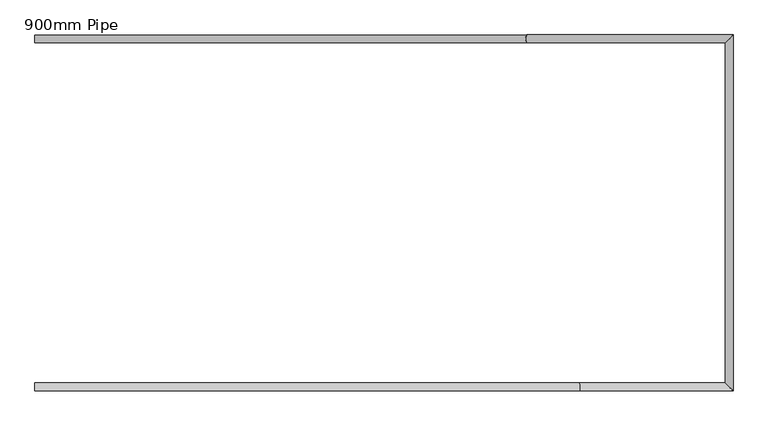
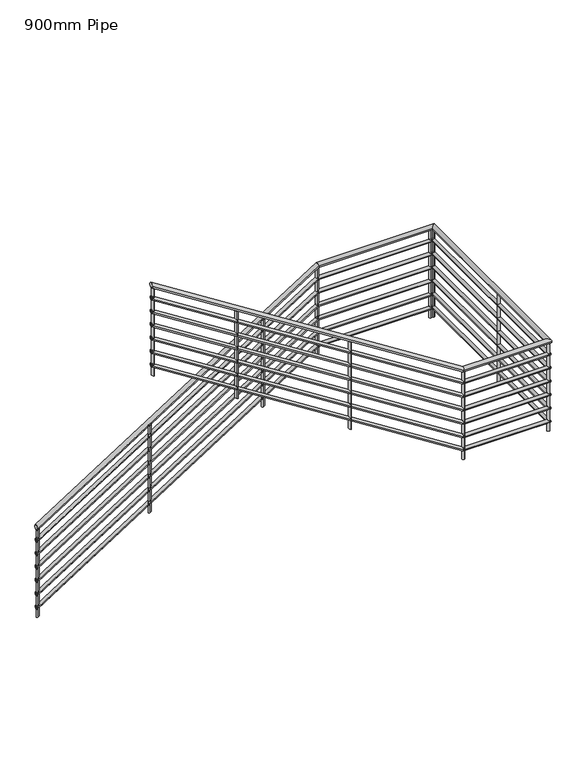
"""IFC4 building model written with IfcOpenShell, lengths in millimetres: railing geometry, 900mm Pipe."""

from ifc_helpers import new_model, si_unit, point, frame, frame_2d, origin, place, context, project, spatial, circle_curve, ellipse_curve, trimmed, segment, composite_curve, outline, extrude, source, transform, mapped, element, save
from ifc_brep_helpers import plane_surface, cylinder_surface, advanced_brep


def railing_900mm_pipe_946b6890(model_context):
    return source(origin(), model_context, "Body", "SolidModel", [
        advanced_brep(
        [(9044.2181942, 164.5332903, 8051.2938094), (9044.2181942, 204.5332903, 8051.2938094), (11525.0422079, 204.5332903, 9630.0), (11525.0422079, 164.5332903, 9630.0), (12564.2181942, 204.5332903, 9630.0), (12524.2181942, 164.5332903, 9630.0), (12564.2181942, -1592.0090589, 9630.0), (12524.2181942, -1552.0090589, 9630.0), (11788.3941804, -1592.0090589, 9630.0), (11788.3941804, -1552.0090589, 9630.0), (9044.2181942, -1552.0090589, 11376.2938094), (9044.2181942, -1592.0090589, 11376.2938094)],
        [
            (0, 1, ellipse_curve(frame((9044.2181942, 184.5332903, 8051.2938094), z_axis=(-1.0, 0.0, 0.0), x_axis=(0.0, 0.0, -1.0)), 23.7061906, 20.0)),
            (1, 0, ellipse_curve(frame((9044.2181942, 184.5332903, 8051.2938094), z_axis=(-1.0, 0.0, 0.0), x_axis=(0.0, 0.0, -1.0)), 23.7061906, 20.0)),
            (1, 2),
            (2, 3, ellipse_curve(frame((11525.0422079, 184.5332903, 9630.0), z_axis=(-0.9601201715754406, 0.0, -0.2795876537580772), x_axis=(0.27958765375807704, 0.0, -0.9601201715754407)), 20.8307258, 20.0)),
            (3, 0),
            (3, 2, ellipse_curve(frame((11525.0422079, 184.5332903, 9630.0), z_axis=(-0.9601201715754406, 0.0, -0.2795876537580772), x_axis=(0.27958765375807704, 0.0, -0.9601201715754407)), 20.8307258, 20.0)),
            (2, 4),
            (4, 5, ellipse_curve(frame((12544.2181942, 184.5332903, 9630.0), z_axis=(-0.7071067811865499, 0.707106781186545, 0.0), x_axis=(-0.7071067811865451, -0.7071067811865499, 0.0)), 28.2842712, 20.0)),
            (5, 3),
            (5, 4, ellipse_curve(frame((12544.2181942, 184.5332903, 9630.0), z_axis=(-0.7071067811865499, 0.707106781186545, 0.0), x_axis=(-0.7071067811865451, -0.7071067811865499, 0.0)), 28.2842712, 20.0)),
            (4, 6),
            (6, 7, ellipse_curve(frame((12544.2181942, -1572.0090589, 9630.0), z_axis=(0.7071067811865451, 0.7071067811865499, 0.0), x_axis=(-0.70710678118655, 0.7071067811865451, 0.0)), 28.2842712, 20.0)),
            (7, 5),
            (7, 6, ellipse_curve(frame((12544.2181942, -1572.0090589, 9630.0), z_axis=(0.7071067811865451, 0.7071067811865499, 0.0), x_axis=(-0.70710678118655, 0.7071067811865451, 0.0)), 28.2842712, 20.0)),
            (6, 8),
            (8, 9, ellipse_curve(frame((11788.3941804, -1572.0090589, 9630.0), z_axis=(0.9601201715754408, 0.0, -0.27958765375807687), x_axis=(0.27958765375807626, 0.0, 0.960120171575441)), 20.8307258, 20.0)),
            (9, 7),
            (9, 8, ellipse_curve(frame((11788.3941804, -1572.0090589, 9630.0), z_axis=(0.9601201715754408, 0.0, -0.27958765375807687), x_axis=(0.27958765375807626, 0.0, 0.960120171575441)), 20.8307258, 20.0)),
            (10, 11, ellipse_curve(frame((9044.2181942, -1572.0090589, 11376.2938094), z_axis=(-1.0, 0.0, 0.0), x_axis=(0.0, 0.0, -1.0)), 23.7061906, 20.0)),
            (11, 10, ellipse_curve(frame((9044.2181942, -1572.0090589, 11376.2938094), z_axis=(-1.0, 0.0, 0.0), x_axis=(0.0, 0.0, -1.0)), 23.7061906, 20.0)),
            (8, 11),
            (10, 9),
        ],
        [
            plane_surface(frame((9044.2181942, 184.5332903, 8075.0), z_axis=(-1.0, 0.0, 0.0), x_axis=(0.0, 1.0, 0.0))),
            cylinder_surface(frame((9054.955704, 184.5332903, 8058.1267702), z_axis=(-0.843661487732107, 0.0, -0.53687549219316), x_axis=(0.0, 1.0, 0.0)), 20.0),
            cylinder_surface(frame((11519.2181942, 184.5332903, 9630.0), z_axis=(-1.0, 0.0, 0.0), x_axis=(0.0, 1.0, 0.0)), 20.0),
            cylinder_surface(frame((12544.2181942, 184.5332903, 9630.0), z_axis=(0.0, 1.0, 0.0), x_axis=(1.0, 0.0, 0.0)), 20.0),
            cylinder_surface(frame((12544.2181942, -1572.0090589, 9630.0), z_axis=(1.0, 0.0, 0.0), x_axis=(0.0, -1.0, 0.0)), 20.0),
            plane_surface(frame((9044.2181942, -1572.0090589, 11400.0), z_axis=(-1.0, 0.0, 0.0), x_axis=(0.0, -1.0, 0.0))),
            cylinder_surface(frame((11783.4806843, -1572.0090589, 9633.1267702), z_axis=(0.8436614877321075, 0.0, -0.5368754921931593), x_axis=(0.0, -1.0, 0.0)), 20.0),
        ],
        [
            (0, [[1, 2]]),
            (1, [[-2, 3, 4, 5]]),
            (1, [[-1, -5, 6, -3]]),
            (2, [[-4, 7, 8, 9]]),
            (2, [[-6, -9, 10, -7]]),
            (3, [[-8, 11, 12, 13]]),
            (3, [[-10, -13, 14, -11]]),
            (4, [[-12, 15, 16, 17]]),
            (4, [[-14, -17, 18, -15]]),
            (5, [[19, 20]]),
            (6, [[-16, 21, -19, 22]]),
            (6, [[-18, -22, -20, -21]]),
        ],
    ),
        advanced_brep(
        [(9044.2181942, 169.5332903, 7932.2203571), (9044.2181942, 199.5332903, 7932.2203571), (11523.5862045, 199.5332903, 9510.0), (11523.5862045, 169.5332903, 9510.0), (12559.2181942, 199.5332903, 9510.0), (12529.2181942, 169.5332903, 9510.0), (12559.2181942, -1587.0090589, 9510.0), (12529.2181942, -1557.0090589, 9510.0), (11789.8501838, -1587.0090589, 9510.0), (11789.8501838, -1557.0090589, 9510.0), (9044.2181942, -1557.0090589, 11257.2203571), (9044.2181942, -1587.0090589, 11257.2203571)],
        [
            (0, 1, ellipse_curve(frame((9044.2181942, 184.5332903, 7932.2203571), z_axis=(-1.0, 0.0, 0.0), x_axis=(0.0, 0.0, -1.0)), 17.7796429, 15.0)),
            (1, 0, ellipse_curve(frame((9044.2181942, 184.5332903, 7932.2203571), z_axis=(-1.0, 0.0, 0.0), x_axis=(0.0, 0.0, -1.0)), 17.7796429, 15.0)),
            (1, 2),
            (2, 3, ellipse_curve(frame((11523.5862045, 184.5332903, 9510.0), z_axis=(-0.9601201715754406, 0.0, -0.2795876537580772), x_axis=(0.27958765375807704, 0.0, -0.9601201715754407)), 15.6230443, 15.0)),
            (3, 0),
            (3, 2, ellipse_curve(frame((11523.5862045, 184.5332903, 9510.0), z_axis=(-0.9601201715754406, 0.0, -0.2795876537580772), x_axis=(0.27958765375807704, 0.0, -0.9601201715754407)), 15.6230443, 15.0)),
            (2, 4),
            (4, 5, ellipse_curve(frame((12544.2181942, 184.5332903, 9510.0), z_axis=(-0.7071067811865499, 0.707106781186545, 0.0), x_axis=(-0.7071067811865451, -0.7071067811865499, 0.0)), 21.2132034, 15.0)),
            (5, 3),
            (5, 4, ellipse_curve(frame((12544.2181942, 184.5332903, 9510.0), z_axis=(-0.7071067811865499, 0.707106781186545, 0.0), x_axis=(-0.7071067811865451, -0.7071067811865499, 0.0)), 21.2132034, 15.0)),
            (4, 6),
            (6, 7, ellipse_curve(frame((12544.2181942, -1572.0090589, 9510.0), z_axis=(0.7071067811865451, 0.7071067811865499, 0.0), x_axis=(-0.70710678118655, 0.7071067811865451, 0.0)), 21.2132034, 15.0)),
            (7, 5),
            (7, 6, ellipse_curve(frame((12544.2181942, -1572.0090589, 9510.0), z_axis=(0.7071067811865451, 0.7071067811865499, 0.0), x_axis=(-0.70710678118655, 0.7071067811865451, 0.0)), 21.2132034, 15.0)),
            (6, 8),
            (8, 9, ellipse_curve(frame((11789.8501838, -1572.0090589, 9510.0), z_axis=(0.9601201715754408, 0.0, -0.27958765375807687), x_axis=(0.27958765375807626, 0.0, 0.960120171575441)), 15.6230443, 15.0)),
            (9, 7),
            (9, 8, ellipse_curve(frame((11789.8501838, -1572.0090589, 9510.0), z_axis=(0.9601201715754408, 0.0, -0.27958765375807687), x_axis=(0.27958765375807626, 0.0, 0.960120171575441)), 15.6230443, 15.0)),
            (10, 11, ellipse_curve(frame((9044.2181942, -1572.0090589, 11257.2203571), z_axis=(-1.0, 0.0, 0.0), x_axis=(0.0, 0.0, -1.0)), 17.7796429, 15.0)),
            (11, 10, ellipse_curve(frame((9044.2181942, -1572.0090589, 11257.2203571), z_axis=(-1.0, 0.0, 0.0), x_axis=(0.0, 0.0, -1.0)), 17.7796429, 15.0)),
            (8, 11),
            (10, 9),
        ],
        [
            plane_surface(frame((9044.2181942, 184.5332903, 7950.0), z_axis=(-1.0, 0.0, 0.0), x_axis=(0.0, 1.0, 0.0))),
            cylinder_surface(frame((9052.2713265, 184.5332903, 7937.3450777), z_axis=(-0.843661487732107, 0.0, -0.53687549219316), x_axis=(0.0, 1.0, 0.0)), 15.0),
            cylinder_surface(frame((11519.2181942, 184.5332903, 9510.0), z_axis=(-1.0, 0.0, 0.0), x_axis=(0.0, 1.0, 0.0)), 15.0),
            cylinder_surface(frame((12544.2181942, 184.5332903, 9510.0), z_axis=(0.0, 1.0, 0.0), x_axis=(1.0, 0.0, 0.0)), 15.0),
            cylinder_surface(frame((12544.2181942, -1572.0090589, 9510.0), z_axis=(1.0, 0.0, 0.0), x_axis=(0.0, -1.0, 0.0)), 15.0),
            plane_surface(frame((9044.2181942, -1572.0090589, 11275.0), z_axis=(-1.0, 0.0, 0.0), x_axis=(0.0, -1.0, 0.0))),
            cylinder_surface(frame((11786.1650618, -1572.0090589, 9512.3450777), z_axis=(0.8436614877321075, 0.0, -0.5368754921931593), x_axis=(0.0, -1.0, 0.0)), 15.0),
        ],
        [
            (0, [[1, 2]]),
            (1, [[-2, 3, 4, 5]]),
            (1, [[-1, -5, 6, -3]]),
            (2, [[-4, 7, 8, 9]]),
            (2, [[-6, -9, 10, -7]]),
            (3, [[-8, 11, 12, 13]]),
            (3, [[-10, -13, 14, -11]]),
            (4, [[-12, 15, 16, 17]]),
            (4, [[-14, -17, 18, -15]]),
            (5, [[19, 20]]),
            (6, [[-16, 21, -19, 22]]),
            (6, [[-18, -22, -20, -21]]),
        ],
    ),
        advanced_brep(
        [(9044.2181942, 169.5332903, 7807.2203571), (9044.2181942, 199.5332903, 7807.2203571), (11523.5862045, 199.5332903, 9385.0), (11523.5862045, 169.5332903, 9385.0), (12559.2181942, 199.5332903, 9385.0), (12529.2181942, 169.5332903, 9385.0), (12559.2181942, -1587.0090589, 9385.0), (12529.2181942, -1557.0090589, 9385.0), (11789.8501838, -1587.0090589, 9385.0), (11789.8501838, -1557.0090589, 9385.0), (9044.2181942, -1557.0090589, 11132.2203571), (9044.2181942, -1587.0090589, 11132.2203571)],
        [
            (0, 1, ellipse_curve(frame((9044.2181942, 184.5332903, 7807.2203571), z_axis=(-1.0, 0.0, 0.0), x_axis=(0.0, 0.0, -1.0)), 17.7796429, 15.0)),
            (1, 0, ellipse_curve(frame((9044.2181942, 184.5332903, 7807.2203571), z_axis=(-1.0, 0.0, 0.0), x_axis=(0.0, 0.0, -1.0)), 17.7796429, 15.0)),
            (1, 2),
            (2, 3, ellipse_curve(frame((11523.5862045, 184.5332903, 9385.0), z_axis=(-0.9601201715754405, 0.0, -0.2795876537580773), x_axis=(0.2795876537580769, 0.0, -0.9601201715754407)), 15.6230443, 15.0)),
            (3, 0),
            (3, 2, ellipse_curve(frame((11523.5862045, 184.5332903, 9385.0), z_axis=(-0.9601201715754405, 0.0, -0.2795876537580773), x_axis=(0.2795876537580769, 0.0, -0.9601201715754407)), 15.6230443, 15.0)),
            (2, 4),
            (4, 5, ellipse_curve(frame((12544.2181942, 184.5332903, 9385.0), z_axis=(-0.7071067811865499, 0.707106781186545, 0.0), x_axis=(-0.7071067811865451, -0.7071067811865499, 0.0)), 21.2132034, 15.0)),
            (5, 3),
            (5, 4, ellipse_curve(frame((12544.2181942, 184.5332903, 9385.0), z_axis=(-0.7071067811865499, 0.707106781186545, 0.0), x_axis=(-0.7071067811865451, -0.7071067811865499, 0.0)), 21.2132034, 15.0)),
            (4, 6),
            (6, 7, ellipse_curve(frame((12544.2181942, -1572.0090589, 9385.0), z_axis=(0.7071067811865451, 0.7071067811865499, 0.0), x_axis=(-0.70710678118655, 0.7071067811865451, 0.0)), 21.2132034, 15.0)),
            (7, 5),
            (7, 6, ellipse_curve(frame((12544.2181942, -1572.0090589, 9385.0), z_axis=(0.7071067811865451, 0.7071067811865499, 0.0), x_axis=(-0.70710678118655, 0.7071067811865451, 0.0)), 21.2132034, 15.0)),
            (6, 8),
            (8, 9, ellipse_curve(frame((11789.8501838, -1572.0090589, 9385.0), z_axis=(0.9601201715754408, 0.0, -0.27958765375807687), x_axis=(0.27958765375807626, 0.0, 0.9601201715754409)), 15.6230443, 15.0)),
            (9, 7),
            (9, 8, ellipse_curve(frame((11789.8501838, -1572.0090589, 9385.0), z_axis=(0.9601201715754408, 0.0, -0.27958765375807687), x_axis=(0.27958765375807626, 0.0, 0.9601201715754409)), 15.6230443, 15.0)),
            (10, 11, ellipse_curve(frame((9044.2181942, -1572.0090589, 11132.2203571), z_axis=(-1.0, 0.0, 0.0), x_axis=(0.0, 0.0, -1.0)), 17.7796429, 15.0)),
            (11, 10, ellipse_curve(frame((9044.2181942, -1572.0090589, 11132.2203571), z_axis=(-1.0, 0.0, 0.0), x_axis=(0.0, 0.0, -1.0)), 17.7796429, 15.0)),
            (8, 11),
            (10, 9),
        ],
        [
            plane_surface(frame((9044.2181942, 184.5332903, 7825.0), z_axis=(-1.0, 0.0, 0.0), x_axis=(0.0, 1.0, 0.0))),
            cylinder_surface(frame((9052.2713265, 184.5332903, 7812.3450777), z_axis=(-0.8436614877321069, 0.0, -0.5368754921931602), x_axis=(0.0, 1.0, 0.0)), 15.0),
            cylinder_surface(frame((11519.2181942, 184.5332903, 9385.0), z_axis=(-1.0, 0.0, 0.0), x_axis=(0.0, 1.0, 0.0)), 15.0),
            cylinder_surface(frame((12544.2181942, 184.5332903, 9385.0), z_axis=(0.0, 1.0, 0.0), x_axis=(1.0, 0.0, 0.0)), 15.0),
            cylinder_surface(frame((12544.2181942, -1572.0090589, 9385.0), z_axis=(1.0, 0.0, 0.0), x_axis=(0.0, -1.0, 0.0)), 15.0),
            plane_surface(frame((9044.2181942, -1572.0090589, 11150.0), z_axis=(-1.0, 0.0, 0.0), x_axis=(0.0, -1.0, 0.0))),
            cylinder_surface(frame((11786.1650618, -1572.0090589, 9387.3450777), z_axis=(0.8436614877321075, 0.0, -0.5368754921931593), x_axis=(0.0, -1.0, 0.0)), 15.0),
        ],
        [
            (0, [[1, 2]]),
            (1, [[-2, 3, 4, 5]]),
            (1, [[-1, -5, 6, -3]]),
            (2, [[-4, 7, 8, 9]]),
            (2, [[-6, -9, 10, -7]]),
            (3, [[-8, 11, 12, 13]]),
            (3, [[-10, -13, 14, -11]]),
            (4, [[-12, 15, 16, 17]]),
            (4, [[-14, -17, 18, -15]]),
            (5, [[19, 20]]),
            (6, [[-16, 21, -19, 22]]),
            (6, [[-18, -22, -20, -21]]),
        ],
    ),
        advanced_brep(
        [(9044.2181942, 169.5332903, 7682.2203571), (9044.2181942, 199.5332903, 7682.2203571), (11523.5862045, 199.5332903, 9260.0), (11523.5862045, 169.5332903, 9260.0), (12559.2181942, 199.5332903, 9260.0), (12529.2181942, 169.5332903, 9260.0), (12559.2181942, -1587.0090589, 9260.0), (12529.2181942, -1557.0090589, 9260.0), (11789.8501838, -1587.0090589, 9260.0), (11789.8501838, -1557.0090589, 9260.0), (9044.2181942, -1557.0090589, 11007.2203571), (9044.2181942, -1587.0090589, 11007.2203571)],
        [
            (0, 1, ellipse_curve(frame((9044.2181942, 184.5332903, 7682.2203571), z_axis=(-1.0, 0.0, 0.0), x_axis=(0.0, 0.0, -1.0)), 17.7796429, 15.0)),
            (1, 0, ellipse_curve(frame((9044.2181942, 184.5332903, 7682.2203571), z_axis=(-1.0, 0.0, 0.0), x_axis=(0.0, 0.0, -1.0)), 17.7796429, 15.0)),
            (1, 2),
            (2, 3, ellipse_curve(frame((11523.5862045, 184.5332903, 9260.0), z_axis=(-0.9601201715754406, 0.0, -0.2795876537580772), x_axis=(0.27958765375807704, 0.0, -0.9601201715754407)), 15.6230443, 15.0)),
            (3, 0),
            (3, 2, ellipse_curve(frame((11523.5862045, 184.5332903, 9260.0), z_axis=(-0.9601201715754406, 0.0, -0.2795876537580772), x_axis=(0.27958765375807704, 0.0, -0.9601201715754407)), 15.6230443, 15.0)),
            (2, 4),
            (4, 5, ellipse_curve(frame((12544.2181942, 184.5332903, 9260.0), z_axis=(-0.7071067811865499, 0.707106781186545, 0.0), x_axis=(-0.7071067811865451, -0.7071067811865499, 0.0)), 21.2132034, 15.0)),
            (5, 3),
            (5, 4, ellipse_curve(frame((12544.2181942, 184.5332903, 9260.0), z_axis=(-0.7071067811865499, 0.707106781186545, 0.0), x_axis=(-0.7071067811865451, -0.7071067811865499, 0.0)), 21.2132034, 15.0)),
            (4, 6),
            (6, 7, ellipse_curve(frame((12544.2181942, -1572.0090589, 9260.0), z_axis=(0.7071067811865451, 0.7071067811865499, 0.0), x_axis=(-0.70710678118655, 0.7071067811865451, 0.0)), 21.2132034, 15.0)),
            (7, 5),
            (7, 6, ellipse_curve(frame((12544.2181942, -1572.0090589, 9260.0), z_axis=(0.7071067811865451, 0.7071067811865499, 0.0), x_axis=(-0.70710678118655, 0.7071067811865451, 0.0)), 21.2132034, 15.0)),
            (6, 8),
            (8, 9, ellipse_curve(frame((11789.8501838, -1572.0090589, 9260.0), z_axis=(0.9601201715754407, 0.0, -0.279587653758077), x_axis=(0.27958765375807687, 0.0, 0.9601201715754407)), 15.6230443, 15.0)),
            (9, 7),
            (9, 8, ellipse_curve(frame((11789.8501838, -1572.0090589, 9260.0), z_axis=(0.9601201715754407, 0.0, -0.279587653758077), x_axis=(0.27958765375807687, 0.0, 0.9601201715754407)), 15.6230443, 15.0)),
            (10, 11, ellipse_curve(frame((9044.2181942, -1572.0090589, 11007.2203571), z_axis=(-1.0, 0.0, 0.0), x_axis=(0.0, 0.0, -1.0)), 17.7796429, 15.0)),
            (11, 10, ellipse_curve(frame((9044.2181942, -1572.0090589, 11007.2203571), z_axis=(-1.0, 0.0, 0.0), x_axis=(0.0, 0.0, -1.0)), 17.7796429, 15.0)),
            (8, 11),
            (10, 9),
        ],
        [
            plane_surface(frame((9044.2181942, 184.5332903, 7700.0), z_axis=(-1.0, 0.0, 0.0), x_axis=(0.0, 1.0, 0.0))),
            cylinder_surface(frame((9052.2713265, 184.5332903, 7687.3450777), z_axis=(-0.843661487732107, 0.0, -0.53687549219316), x_axis=(0.0, 1.0, 0.0)), 15.0),
            cylinder_surface(frame((11519.2181942, 184.5332903, 9260.0), z_axis=(-1.0, 0.0, 0.0), x_axis=(0.0, 1.0, 0.0)), 15.0),
            cylinder_surface(frame((12544.2181942, 184.5332903, 9260.0), z_axis=(0.0, 1.0, 0.0), x_axis=(1.0, 0.0, 0.0)), 15.0),
            cylinder_surface(frame((12544.2181942, -1572.0090589, 9260.0), z_axis=(1.0, 0.0, 0.0), x_axis=(0.0, -1.0, 0.0)), 15.0),
            plane_surface(frame((9044.2181942, -1572.0090589, 11025.0), z_axis=(-1.0, 0.0, 0.0), x_axis=(0.0, -1.0, 0.0))),
            cylinder_surface(frame((11786.1650618, -1572.0090589, 9262.3450777), z_axis=(0.8436614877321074, 0.0, -0.5368754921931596), x_axis=(0.0, -1.0, 0.0)), 15.0),
        ],
        [
            (0, [[1, 2]]),
            (1, [[-2, 3, 4, 5]]),
            (1, [[-1, -5, 6, -3]]),
            (2, [[-4, 7, 8, 9]]),
            (2, [[-6, -9, 10, -7]]),
            (3, [[-8, 11, 12, 13]]),
            (3, [[-10, -13, 14, -11]]),
            (4, [[-12, 15, 16, 17]]),
            (4, [[-14, -17, 18, -15]]),
            (5, [[19, 20]]),
            (6, [[-16, 21, -19, 22]]),
            (6, [[-18, -22, -20, -21]]),
        ],
    ),
        advanced_brep(
        [(9044.2181942, 169.5332903, 7557.2203571), (9044.2181942, 199.5332903, 7557.2203571), (11523.5862045, 199.5332903, 9135.0), (11523.5862045, 169.5332903, 9135.0), (12559.2181942, 199.5332903, 9135.0), (12529.2181942, 169.5332903, 9135.0), (12559.2181942, -1587.0090589, 9135.0), (12529.2181942, -1557.0090589, 9135.0), (11789.8501838, -1587.0090589, 9135.0), (11789.8501838, -1557.0090589, 9135.0), (9044.2181942, -1557.0090589, 10882.2203571), (9044.2181942, -1587.0090589, 10882.2203571)],
        [
            (0, 1, ellipse_curve(frame((9044.2181942, 184.5332903, 7557.2203571), z_axis=(-1.0, 0.0, 0.0), x_axis=(0.0, 0.0, -1.0)), 17.7796429, 15.0)),
            (1, 0, ellipse_curve(frame((9044.2181942, 184.5332903, 7557.2203571), z_axis=(-1.0, 0.0, 0.0), x_axis=(0.0, 0.0, -1.0)), 17.7796429, 15.0)),
            (1, 2),
            (2, 3, ellipse_curve(frame((11523.5862045, 184.5332903, 9135.0), z_axis=(-0.9601201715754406, 0.0, -0.2795876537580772), x_axis=(0.27958765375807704, 0.0, -0.9601201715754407)), 15.6230443, 15.0)),
            (3, 0),
            (3, 2, ellipse_curve(frame((11523.5862045, 184.5332903, 9135.0), z_axis=(-0.9601201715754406, 0.0, -0.2795876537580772), x_axis=(0.27958765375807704, 0.0, -0.9601201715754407)), 15.6230443, 15.0)),
            (2, 4),
            (4, 5, ellipse_curve(frame((12544.2181942, 184.5332903, 9135.0), z_axis=(-0.7071067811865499, 0.707106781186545, 0.0), x_axis=(-0.7071067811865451, -0.7071067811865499, 0.0)), 21.2132034, 15.0)),
            (5, 3),
            (5, 4, ellipse_curve(frame((12544.2181942, 184.5332903, 9135.0), z_axis=(-0.7071067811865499, 0.707106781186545, 0.0), x_axis=(-0.7071067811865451, -0.7071067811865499, 0.0)), 21.2132034, 15.0)),
            (4, 6),
            (6, 7, ellipse_curve(frame((12544.2181942, -1572.0090589, 9135.0), z_axis=(0.7071067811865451, 0.7071067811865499, 0.0), x_axis=(-0.70710678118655, 0.7071067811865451, 0.0)), 21.2132034, 15.0)),
            (7, 5),
            (7, 6, ellipse_curve(frame((12544.2181942, -1572.0090589, 9135.0), z_axis=(0.7071067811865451, 0.7071067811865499, 0.0), x_axis=(-0.70710678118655, 0.7071067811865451, 0.0)), 21.2132034, 15.0)),
            (6, 8),
            (8, 9, ellipse_curve(frame((11789.8501838, -1572.0090589, 9135.0), z_axis=(0.9601201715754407, 0.0, -0.279587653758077), x_axis=(0.27958765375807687, 0.0, 0.9601201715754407)), 15.6230443, 15.0)),
            (9, 7),
            (9, 8, ellipse_curve(frame((11789.8501838, -1572.0090589, 9135.0), z_axis=(0.9601201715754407, 0.0, -0.279587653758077), x_axis=(0.27958765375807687, 0.0, 0.9601201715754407)), 15.6230443, 15.0)),
            (10, 11, ellipse_curve(frame((9044.2181942, -1572.0090589, 10882.2203571), z_axis=(-1.0, 0.0, 0.0), x_axis=(0.0, 0.0, -1.0)), 17.7796429, 15.0)),
            (11, 10, ellipse_curve(frame((9044.2181942, -1572.0090589, 10882.2203571), z_axis=(-1.0, 0.0, 0.0), x_axis=(0.0, 0.0, -1.0)), 17.7796429, 15.0)),
            (8, 11),
            (10, 9),
        ],
        [
            plane_surface(frame((9044.2181942, 184.5332903, 7575.0), z_axis=(-1.0, 0.0, 0.0), x_axis=(0.0, 1.0, 0.0))),
            cylinder_surface(frame((9052.2713265, 184.5332903, 7562.3450777), z_axis=(-0.843661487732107, 0.0, -0.53687549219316), x_axis=(0.0, 1.0, 0.0)), 15.0),
            cylinder_surface(frame((11519.2181942, 184.5332903, 9135.0), z_axis=(-1.0, 0.0, 0.0), x_axis=(0.0, 1.0, 0.0)), 15.0),
            cylinder_surface(frame((12544.2181942, 184.5332903, 9135.0), z_axis=(0.0, 1.0, 0.0), x_axis=(1.0, 0.0, 0.0)), 15.0),
            cylinder_surface(frame((12544.2181942, -1572.0090589, 9135.0), z_axis=(1.0, 0.0, 0.0), x_axis=(0.0, -1.0, 0.0)), 15.0),
            plane_surface(frame((9044.2181942, -1572.0090589, 10900.0), z_axis=(-1.0, 0.0, 0.0), x_axis=(0.0, -1.0, 0.0))),
            cylinder_surface(frame((11786.1650618, -1572.0090589, 9137.3450777), z_axis=(0.8436614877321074, 0.0, -0.5368754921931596), x_axis=(0.0, -1.0, 0.0)), 15.0),
        ],
        [
            (0, [[1, 2]]),
            (1, [[-2, 3, 4, 5]]),
            (1, [[-1, -5, 6, -3]]),
            (2, [[-4, 7, 8, 9]]),
            (2, [[-6, -9, 10, -7]]),
            (3, [[-8, 11, 12, 13]]),
            (3, [[-10, -13, 14, -11]]),
            (4, [[-12, 15, 16, 17]]),
            (4, [[-14, -17, 18, -15]]),
            (5, [[19, 20]]),
            (6, [[-16, 21, -19, 22]]),
            (6, [[-18, -22, -20, -21]]),
        ],
    ),
        advanced_brep(
        [(9044.2181942, 169.5332903, 7432.2203571), (9044.2181942, 199.5332903, 7432.2203571), (11523.5862045, 199.5332903, 9010.0), (11523.5862045, 169.5332903, 9010.0), (12559.2181942, 199.5332903, 9010.0), (12529.2181942, 169.5332903, 9010.0), (12559.2181942, -1587.0090589, 9010.0), (12529.2181942, -1557.0090589, 9010.0), (11789.8501838, -1587.0090589, 9010.0), (11789.8501838, -1557.0090589, 9010.0), (9044.2181942, -1557.0090589, 10757.2203571), (9044.2181942, -1587.0090589, 10757.2203571)],
        [
            (0, 1, ellipse_curve(frame((9044.2181942, 184.5332903, 7432.2203571), z_axis=(-1.0, 0.0, 0.0), x_axis=(0.0, 0.0, -1.0)), 17.7796429, 15.0)),
            (1, 0, ellipse_curve(frame((9044.2181942, 184.5332903, 7432.2203571), z_axis=(-1.0, 0.0, 0.0), x_axis=(0.0, 0.0, -1.0)), 17.7796429, 15.0)),
            (1, 2),
            (2, 3, ellipse_curve(frame((11523.5862045, 184.5332903, 9010.0), z_axis=(-0.9601201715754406, 0.0, -0.2795876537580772), x_axis=(0.27958765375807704, 0.0, -0.9601201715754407)), 15.6230443, 15.0)),
            (3, 0),
            (3, 2, ellipse_curve(frame((11523.5862045, 184.5332903, 9010.0), z_axis=(-0.9601201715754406, 0.0, -0.2795876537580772), x_axis=(0.27958765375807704, 0.0, -0.9601201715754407)), 15.6230443, 15.0)),
            (2, 4),
            (4, 5, ellipse_curve(frame((12544.2181942, 184.5332903, 9010.0), z_axis=(-0.7071067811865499, 0.707106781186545, 0.0), x_axis=(-0.7071067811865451, -0.7071067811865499, 0.0)), 21.2132034, 15.0)),
            (5, 3),
            (5, 4, ellipse_curve(frame((12544.2181942, 184.5332903, 9010.0), z_axis=(-0.7071067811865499, 0.707106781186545, 0.0), x_axis=(-0.7071067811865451, -0.7071067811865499, 0.0)), 21.2132034, 15.0)),
            (4, 6),
            (6, 7, ellipse_curve(frame((12544.2181942, -1572.0090589, 9010.0), z_axis=(0.7071067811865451, 0.7071067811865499, 0.0), x_axis=(-0.70710678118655, 0.7071067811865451, 0.0)), 21.2132034, 15.0)),
            (7, 5),
            (7, 6, ellipse_curve(frame((12544.2181942, -1572.0090589, 9010.0), z_axis=(0.7071067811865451, 0.7071067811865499, 0.0), x_axis=(-0.70710678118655, 0.7071067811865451, 0.0)), 21.2132034, 15.0)),
            (6, 8),
            (8, 9, ellipse_curve(frame((11789.8501838, -1572.0090589, 9010.0), z_axis=(0.9601201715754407, 0.0, -0.279587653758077), x_axis=(0.27958765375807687, 0.0, 0.9601201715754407)), 15.6230443, 15.0)),
            (9, 7),
            (9, 8, ellipse_curve(frame((11789.8501838, -1572.0090589, 9010.0), z_axis=(0.9601201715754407, 0.0, -0.279587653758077), x_axis=(0.27958765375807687, 0.0, 0.9601201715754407)), 15.6230443, 15.0)),
            (10, 11, ellipse_curve(frame((9044.2181942, -1572.0090589, 10757.2203571), z_axis=(-1.0, 0.0, 0.0), x_axis=(0.0, 0.0, -1.0)), 17.7796429, 15.0)),
            (11, 10, ellipse_curve(frame((9044.2181942, -1572.0090589, 10757.2203571), z_axis=(-1.0, 0.0, 0.0), x_axis=(0.0, 0.0, -1.0)), 17.7796429, 15.0)),
            (8, 11),
            (10, 9),
        ],
        [
            plane_surface(frame((9044.2181942, 184.5332903, 7450.0), z_axis=(-1.0, 0.0, 0.0), x_axis=(0.0, 1.0, 0.0))),
            cylinder_surface(frame((9052.2713265, 184.5332903, 7437.3450777), z_axis=(-0.843661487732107, 0.0, -0.53687549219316), x_axis=(0.0, 1.0, 0.0)), 15.0),
            cylinder_surface(frame((11519.2181942, 184.5332903, 9010.0), z_axis=(-1.0, 0.0, 0.0), x_axis=(0.0, 1.0, 0.0)), 15.0),
            cylinder_surface(frame((12544.2181942, 184.5332903, 9010.0), z_axis=(0.0, 1.0, 0.0), x_axis=(1.0, 0.0, 0.0)), 15.0),
            cylinder_surface(frame((12544.2181942, -1572.0090589, 9010.0), z_axis=(1.0, 0.0, 0.0), x_axis=(0.0, -1.0, 0.0)), 15.0),
            plane_surface(frame((9044.2181942, -1572.0090589, 10775.0), z_axis=(-1.0, 0.0, 0.0), x_axis=(0.0, -1.0, 0.0))),
            cylinder_surface(frame((11786.1650618, -1572.0090589, 9012.3450777), z_axis=(0.8436614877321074, 0.0, -0.5368754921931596), x_axis=(0.0, -1.0, 0.0)), 15.0),
        ],
        [
            (0, [[1, 2]]),
            (1, [[-2, 3, 4, 5]]),
            (1, [[-1, -5, 6, -3]]),
            (2, [[-4, 7, 8, 9]]),
            (2, [[-6, -9, 10, -7]]),
            (3, [[-8, 11, 12, 13]]),
            (3, [[-10, -13, 14, -11]]),
            (4, [[-12, 15, 16, 17]]),
            (4, [[-14, -17, 18, -15]]),
            (5, [[19, 20]]),
            (6, [[-16, 21, -19, 22]]),
            (6, [[-18, -22, -20, -21]]),
        ],
    ),
        advanced_brep(
        [(9044.2181942, 169.5332903, 7307.2203571), (9044.2181942, 199.5332903, 7307.2203571), (11523.5862045, 199.5332903, 8885.0), (11523.5862045, 169.5332903, 8885.0), (12559.2181942, 199.5332903, 8885.0), (12529.2181942, 169.5332903, 8885.0), (12559.2181942, -1587.0090589, 8885.0), (12529.2181942, -1557.0090589, 8885.0), (11789.8501838, -1587.0090589, 8885.0), (11789.8501838, -1557.0090589, 8885.0), (9044.2181942, -1557.0090589, 10632.2203571), (9044.2181942, -1587.0090589, 10632.2203571)],
        [
            (0, 1, ellipse_curve(frame((9044.2181942, 184.5332903, 7307.2203571), z_axis=(-1.0, 0.0, 0.0), x_axis=(0.0, 0.0, -1.0)), 17.7796429, 15.0)),
            (1, 0, ellipse_curve(frame((9044.2181942, 184.5332903, 7307.2203571), z_axis=(-1.0, 0.0, 0.0), x_axis=(0.0, 0.0, -1.0)), 17.7796429, 15.0)),
            (1, 2),
            (2, 3, ellipse_curve(frame((11523.5862045, 184.5332903, 8885.0), z_axis=(-0.9601201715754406, 0.0, -0.2795876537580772), x_axis=(0.27958765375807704, 0.0, -0.9601201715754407)), 15.6230443, 15.0)),
            (3, 0),
            (3, 2, ellipse_curve(frame((11523.5862045, 184.5332903, 8885.0), z_axis=(-0.9601201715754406, 0.0, -0.2795876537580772), x_axis=(0.27958765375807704, 0.0, -0.9601201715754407)), 15.6230443, 15.0)),
            (2, 4),
            (4, 5, ellipse_curve(frame((12544.2181942, 184.5332903, 8885.0), z_axis=(-0.7071067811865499, 0.707106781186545, 0.0), x_axis=(-0.7071067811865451, -0.7071067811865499, 0.0)), 21.2132034, 15.0)),
            (5, 3),
            (5, 4, ellipse_curve(frame((12544.2181942, 184.5332903, 8885.0), z_axis=(-0.7071067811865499, 0.707106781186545, 0.0), x_axis=(-0.7071067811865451, -0.7071067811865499, 0.0)), 21.2132034, 15.0)),
            (4, 6),
            (6, 7, ellipse_curve(frame((12544.2181942, -1572.0090589, 8885.0), z_axis=(0.7071067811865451, 0.7071067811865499, 0.0), x_axis=(-0.70710678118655, 0.7071067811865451, 0.0)), 21.2132034, 15.0)),
            (7, 5),
            (7, 6, ellipse_curve(frame((12544.2181942, -1572.0090589, 8885.0), z_axis=(0.7071067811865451, 0.7071067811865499, 0.0), x_axis=(-0.70710678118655, 0.7071067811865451, 0.0)), 21.2132034, 15.0)),
            (6, 8),
            (8, 9, ellipse_curve(frame((11789.8501838, -1572.0090589, 8885.0), z_axis=(0.9601201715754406, 0.0, -0.2795876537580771), x_axis=(0.27958765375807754, 0.0, 0.9601201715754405)), 15.6230443, 15.0)),
            (9, 7),
            (9, 8, ellipse_curve(frame((11789.8501838, -1572.0090589, 8885.0), z_axis=(0.9601201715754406, 0.0, -0.2795876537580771), x_axis=(0.27958765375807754, 0.0, 0.9601201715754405)), 15.6230443, 15.0)),
            (10, 11, ellipse_curve(frame((9044.2181942, -1572.0090589, 10632.2203571), z_axis=(-1.0, 0.0, 0.0), x_axis=(0.0, 0.0, -1.0)), 17.7796429, 15.0)),
            (11, 10, ellipse_curve(frame((9044.2181942, -1572.0090589, 10632.2203571), z_axis=(-1.0, 0.0, 0.0), x_axis=(0.0, 0.0, -1.0)), 17.7796429, 15.0)),
            (8, 11),
            (10, 9),
        ],
        [
            plane_surface(frame((9044.2181942, 184.5332903, 7325.0), z_axis=(-1.0, 0.0, 0.0), x_axis=(0.0, 1.0, 0.0))),
            cylinder_surface(frame((9052.2713265, 184.5332903, 7312.3450777), z_axis=(-0.843661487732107, 0.0, -0.53687549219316), x_axis=(0.0, 1.0, 0.0)), 15.0),
            cylinder_surface(frame((11519.2181942, 184.5332903, 8885.0), z_axis=(-1.0, 0.0, 0.0), x_axis=(0.0, 1.0, 0.0)), 15.0),
            cylinder_surface(frame((12544.2181942, 184.5332903, 8885.0), z_axis=(0.0, 1.0, 0.0), x_axis=(1.0, 0.0, 0.0)), 15.0),
            cylinder_surface(frame((12544.2181942, -1572.0090589, 8885.0), z_axis=(1.0, 0.0, 0.0), x_axis=(0.0, -1.0, 0.0)), 15.0),
            plane_surface(frame((9044.2181942, -1572.0090589, 10650.0), z_axis=(-1.0, 0.0, 0.0), x_axis=(0.0, -1.0, 0.0))),
            cylinder_surface(frame((11786.1650618, -1572.0090589, 8887.3450777), z_axis=(0.8436614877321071, 0.0, -0.5368754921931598), x_axis=(0.0, -1.0, 0.0)), 15.0),
        ],
        [
            (0, [[1, 2]]),
            (1, [[-2, 3, 4, 5]]),
            (1, [[-1, -5, 6, -3]]),
            (2, [[-4, 7, 8, 9]]),
            (2, [[-6, -9, 10, -7]]),
            (3, [[-8, 11, 12, 13]]),
            (3, [[-10, -13, 14, -11]]),
            (4, [[-12, 15, 16, 17]]),
            (4, [[-14, -17, 18, -15]]),
            (5, [[19, 20]]),
            (6, [[-16, 21, -19, 22]]),
            (6, [[-18, -22, -20, -21]]),
        ],
    ),
        advanced_brep(
        [(9794.2181942, -1584.5090589, 10875.3148916), (9794.2181942, -1559.5090589, 10875.3148916), (9794.2181942, -1559.5090589, 10063.1941859), (9794.2181942, -1584.5090589, 10063.1941859)],
        [
            (0, 1, ellipse_curve(frame((9794.2181942, -1572.0090589, 10875.3148916), z_axis=(-0.5368754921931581, 0.0, -0.8436614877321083), x_axis=(-0.8436614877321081, 0.0, 0.5368754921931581)), 14.8163691, 12.5)),
            (1, 2),
            (2, 3, ellipse_curve(frame((9794.2181942, -1572.0090589, 10063.1941859), z_axis=(0.5368754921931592, 0.0, 0.8436614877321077), x_axis=(-0.8436614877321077, 0.0, 0.5368754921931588)), 14.8163691, 12.5)),
            (3, 0),
            (3, 2, ellipse_curve(frame((9794.2181942, -1572.0090589, 10063.1941859), z_axis=(0.5368754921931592, 0.0, 0.8436614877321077), x_axis=(-0.8436614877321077, 0.0, 0.5368754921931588)), 14.8163691, 12.5)),
            (1, 0, ellipse_curve(frame((9794.2181942, -1572.0090589, 10875.3148916), z_axis=(-0.5368754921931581, 0.0, -0.8436614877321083), x_axis=(-0.8436614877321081, 0.0, 0.5368754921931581)), 14.8163691, 12.5)),
        ],
        [
            cylinder_surface(frame((9794.2181942, -1572.0090589, 9963.1941859), z_axis=(0.0, 0.0, 1.0), x_axis=(0.0, 1.0, 0.0)), 12.5),
            plane_surface(frame((9769.2181942, -1547.0090589, 10891.2239825), z_axis=(0.5368754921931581, 0.0, 0.8436614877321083), x_axis=(0.0, -1.0, 0.0))),
            plane_surface(frame((9819.2181942, -1547.0090589, 10047.285095), z_axis=(-0.5368754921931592, 0.0, -0.8436614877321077), x_axis=(0.0, -1.0, 0.0))),
        ],
        [
            (0, [[1, 2, 3, 4]]),
            (0, [[5, -2, 6, -4]]),
            (1, [[-6, -1]]),
            (2, [[-5, -3]]),
        ],
    ),
        advanced_brep(
        [(10794.2181942, -1584.5090589, 10238.9512552), (10794.2181942, -1559.5090589, 10238.9512552), (10794.2181942, -1559.5090589, 9426.8305496), (10794.2181942, -1584.5090589, 9426.8305496)],
        [
            (0, 1, ellipse_curve(frame((10794.2181942, -1572.0090589, 10238.9512552), z_axis=(-0.5368754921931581, 0.0, -0.8436614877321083), x_axis=(-0.8436614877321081, 0.0, 0.5368754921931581)), 14.8163691, 12.5)),
            (1, 2),
            (2, 3, ellipse_curve(frame((10794.2181942, -1572.0090589, 9426.8305496), z_axis=(0.5368754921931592, 0.0, 0.8436614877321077), x_axis=(-0.8436614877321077, 0.0, 0.5368754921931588)), 14.8163691, 12.5)),
            (3, 0),
            (3, 2, ellipse_curve(frame((10794.2181942, -1572.0090589, 9426.8305496), z_axis=(0.5368754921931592, 0.0, 0.8436614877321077), x_axis=(-0.8436614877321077, 0.0, 0.5368754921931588)), 14.8163691, 12.5)),
            (1, 0, ellipse_curve(frame((10794.2181942, -1572.0090589, 10238.9512552), z_axis=(-0.5368754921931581, 0.0, -0.8436614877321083), x_axis=(-0.8436614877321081, 0.0, 0.5368754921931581)), 14.8163691, 12.5)),
        ],
        [
            cylinder_surface(frame((10794.2181942, -1572.0090589, 9326.8305496), z_axis=(0.0, 0.0, 1.0), x_axis=(0.0, 1.0, 0.0)), 12.5),
            plane_surface(frame((10769.2181942, -1547.0090589, 10254.8603461), z_axis=(0.5368754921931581, 0.0, 0.8436614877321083), x_axis=(0.0, -1.0, 0.0))),
            plane_surface(frame((10819.2181942, -1547.0090589, 9410.9214587), z_axis=(-0.5368754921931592, 0.0, -0.8436614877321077), x_axis=(0.0, -1.0, 0.0))),
        ],
        [
            (0, [[1, 2, 3, 4]]),
            (0, [[5, -2, 6, -4]]),
            (1, [[-6, -1]]),
            (2, [[-5, -3]]),
        ],
    ),
        extrude(outline(composite_curve([segment(trimmed(circle_curve(frame_2d((12544.2181942, -815.4667097)), 12.5), [point((12531.7181942, -815.4667097))], [point((12556.7181942, -815.4667097))], False, "CARTESIAN"), True, "CONTINUOUS"), segment(trimmed(circle_curve(frame_2d((12544.2181942, -815.4667097)), 12.5), [point((12556.7181942, -815.4667097))], [point((12531.7181942, -815.4667097))], False, "CARTESIAN"), True, "CONTINUOUS")], self_intersect=False)), frame((0.0, 0.0, 8797.393727), z_axis=(0.0, 0.0, 1.0), x_axis=(1.0, 0.0, 0.0)), (0.0, 0.0, 1.0), 812.606273),
        extrude(outline(composite_curve([segment(trimmed(circle_curve(frame_2d((12519.2181942, 184.5332903)), 12.5), [point((12519.2181942, 172.0332903))], [point((12519.2181942, 197.0332903))], False, "CARTESIAN"), True, "CONTINUOUS"), segment(trimmed(circle_curve(frame_2d((12519.2181942, 184.5332903)), 12.5), [point((12519.2181942, 197.0332903))], [point((12519.2181942, 172.0332903))], False, "CARTESIAN"), True, "CONTINUOUS")], self_intersect=False)), frame((0.0, 0.0, 8797.393727), z_axis=(0.0, 0.0, 1.0), x_axis=(1.0, 0.0, 0.0)), (0.0, 0.0, 1.0), 812.606273),
        advanced_brep(
        [(11044.2181942, 197.0332903, 9300.3148916), (11044.2181942, 172.0332903, 9300.3148916), (11044.2181942, 172.0332903, 8488.1941859), (11044.2181942, 197.0332903, 8488.1941859)],
        [
            (0, 1, ellipse_curve(frame((11044.2181942, 184.5332903, 9300.3148916), z_axis=(0.5368754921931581, 0.0, -0.8436614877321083), x_axis=(0.8436614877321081, 0.0, 0.5368754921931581)), 14.8163691, 12.5)),
            (1, 2),
            (2, 3, ellipse_curve(frame((11044.2181942, 184.5332903, 8488.1941859), z_axis=(-0.5368754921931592, 0.0, 0.8436614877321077), x_axis=(0.8436614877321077, 0.0, 0.5368754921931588)), 14.8163691, 12.5)),
            (3, 0),
            (3, 2, ellipse_curve(frame((11044.2181942, 184.5332903, 8488.1941859), z_axis=(-0.5368754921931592, 0.0, 0.8436614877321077), x_axis=(0.8436614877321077, 0.0, 0.5368754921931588)), 14.8163691, 12.5)),
            (1, 0, ellipse_curve(frame((11044.2181942, 184.5332903, 9300.3148916), z_axis=(0.5368754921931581, 0.0, -0.8436614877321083), x_axis=(0.8436614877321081, 0.0, 0.5368754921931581)), 14.8163691, 12.5)),
        ],
        [
            cylinder_surface(frame((11044.2181942, 184.5332903, 8388.1941859), z_axis=(0.0, 0.0, 1.0), x_axis=(0.0, -1.0, 0.0)), 12.5),
            plane_surface(frame((11069.2181942, 159.5332903, 9316.2239825), z_axis=(-0.5368754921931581, 0.0, 0.8436614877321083), x_axis=(0.0, 1.0, 0.0))),
            plane_surface(frame((11019.2181942, 159.5332903, 8472.285095), z_axis=(0.5368754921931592, 0.0, -0.8436614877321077), x_axis=(0.0, 1.0, 0.0))),
        ],
        [
            (0, [[1, 2, 3, 4]]),
            (0, [[5, -2, 6, -4]]),
            (1, [[-6, -1]]),
            (2, [[-5, -3]]),
        ],
    ),
        advanced_brep(
        [(10044.2181942, 197.0332903, 8663.9512552), (10044.2181942, 172.0332903, 8663.9512552), (10044.2181942, 172.0332903, 7851.8305496), (10044.2181942, 197.0332903, 7851.8305496)],
        [
            (0, 1, ellipse_curve(frame((10044.2181942, 184.5332903, 8663.9512552), z_axis=(0.5368754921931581, 0.0, -0.8436614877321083), x_axis=(0.8436614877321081, 0.0, 0.5368754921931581)), 14.8163691, 12.5)),
            (1, 2),
            (2, 3, ellipse_curve(frame((10044.2181942, 184.5332903, 7851.8305496), z_axis=(-0.5368754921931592, 0.0, 0.8436614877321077), x_axis=(0.8436614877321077, 0.0, 0.5368754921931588)), 14.8163691, 12.5)),
            (3, 0),
            (3, 2, ellipse_curve(frame((10044.2181942, 184.5332903, 7851.8305496), z_axis=(-0.5368754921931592, 0.0, 0.8436614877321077), x_axis=(0.8436614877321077, 0.0, 0.5368754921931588)), 14.8163691, 12.5)),
            (1, 0, ellipse_curve(frame((10044.2181942, 184.5332903, 8663.9512552), z_axis=(0.5368754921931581, 0.0, -0.8436614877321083), x_axis=(0.8436614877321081, 0.0, 0.5368754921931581)), 14.8163691, 12.5)),
        ],
        [
            cylinder_surface(frame((10044.2181942, 184.5332903, 7751.8305496), z_axis=(0.0, 0.0, 1.0), x_axis=(0.0, -1.0, 0.0)), 12.5),
            plane_surface(frame((10069.2181942, 159.5332903, 8679.8603461), z_axis=(-0.5368754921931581, 0.0, 0.8436614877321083), x_axis=(0.0, 1.0, 0.0))),
            plane_surface(frame((10019.2181942, 159.5332903, 7835.9214587), z_axis=(0.5368754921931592, 0.0, -0.8436614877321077), x_axis=(0.0, 1.0, 0.0))),
        ],
        [
            (0, [[1, 2, 3, 4]]),
            (0, [[5, -2, 6, -4]]),
            (1, [[-6, -1]]),
            (2, [[-5, -3]]),
        ],
    ),
        extrude(outline(composite_curve([segment(trimmed(circle_curve(frame_2d((11794.2181942, -1572.0090589)), 12.5), [point((11794.2181942, -1559.5090589))], [point((11794.2181942, -1584.5090589))], False, "CARTESIAN"), True, "CONTINUOUS"), segment(trimmed(circle_curve(frame_2d((11794.2181942, -1572.0090589)), 12.5), [point((11794.2181942, -1584.5090589))], [point((11794.2181942, -1559.5090589))], False, "CARTESIAN"), True, "CONTINUOUS")], self_intersect=False)), frame((0.0, 0.0, 8797.393727), z_axis=(0.0, 0.0, 1.0), x_axis=(1.0, 0.0, 0.0)), (0.0, 0.0, 1.0), 812.606273),
        extrude(outline(composite_curve([segment(trimmed(circle_curve(frame_2d((12544.2181942, -1572.0090589)), 12.5), [point((12531.7181942, -1572.0090589))], [point((12556.7181942, -1572.0090589))], False, "CARTESIAN"), True, "CONTINUOUS"), segment(trimmed(circle_curve(frame_2d((12544.2181942, -1572.0090589)), 12.5), [point((12556.7181942, -1572.0090589))], [point((12531.7181942, -1572.0090589))], False, "CARTESIAN"), True, "CONTINUOUS")], self_intersect=False)), frame((0.0, 0.0, 8797.393727), z_axis=(0.0, 0.0, 1.0), x_axis=(1.0, 0.0, 0.0)), (0.0, 0.0, 1.0), 812.606273),
        extrude(outline(composite_curve([segment(trimmed(circle_curve(frame_2d((12544.2181942, 184.5332903)), 12.5), [point((12544.2181942, 172.0332903))], [point((12544.2181942, 197.0332903))], False, "CARTESIAN"), True, "CONTINUOUS"), segment(trimmed(circle_curve(frame_2d((12544.2181942, 184.5332903)), 12.5), [point((12544.2181942, 197.0332903))], [point((12544.2181942, 172.0332903))], False, "CARTESIAN"), True, "CONTINUOUS")], self_intersect=False)), frame((0.0, 0.0, 8797.393727), z_axis=(0.0, 0.0, 1.0), x_axis=(1.0, 0.0, 0.0)), (0.0, 0.0, 1.0), 812.606273),
        advanced_brep(
        [(11519.2181942, 197.0332903, 9602.5876189), (11519.2181942, 172.0332903, 9602.5876189), (11519.2181942, 172.0332903, 8790.4669132), (11519.2181942, 197.0332903, 8790.4669132)],
        [
            (0, 1, ellipse_curve(frame((11519.2181942, 184.5332903, 9602.5876189), z_axis=(0.5368754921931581, 0.0, -0.8436614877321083), x_axis=(0.8436614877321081, 0.0, 0.5368754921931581)), 14.8163691, 12.5)),
            (1, 2),
            (2, 3, ellipse_curve(frame((11519.2181942, 184.5332903, 8790.4669132), z_axis=(-0.5368754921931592, 0.0, 0.8436614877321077), x_axis=(0.8436614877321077, 0.0, 0.5368754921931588)), 14.8163691, 12.5)),
            (3, 0),
            (3, 2, ellipse_curve(frame((11519.2181942, 184.5332903, 8790.4669132), z_axis=(-0.5368754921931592, 0.0, 0.8436614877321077), x_axis=(0.8436614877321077, 0.0, 0.5368754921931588)), 14.8163691, 12.5)),
            (1, 0, ellipse_curve(frame((11519.2181942, 184.5332903, 9602.5876189), z_axis=(0.5368754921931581, 0.0, -0.8436614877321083), x_axis=(0.8436614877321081, 0.0, 0.5368754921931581)), 14.8163691, 12.5)),
        ],
        [
            cylinder_surface(frame((11519.2181942, 184.5332903, 8690.4669132), z_axis=(0.0, 0.0, 1.0), x_axis=(0.0, -1.0, 0.0)), 12.5),
            plane_surface(frame((11544.2181942, 159.5332903, 9618.4967098), z_axis=(-0.5368754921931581, 0.0, 0.8436614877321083), x_axis=(0.0, 1.0, 0.0))),
            plane_surface(frame((11494.2181942, 159.5332903, 8774.5578223), z_axis=(0.5368754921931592, 0.0, -0.8436614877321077), x_axis=(0.0, 1.0, 0.0))),
        ],
        [
            (0, [[1, 2, 3, 4]]),
            (0, [[5, -2, 6, -4]]),
            (1, [[-6, -1]]),
            (2, [[-5, -3]]),
        ],
    ),
        advanced_brep(
        [(9056.7181942, -1584.5090589, 11344.6330734), (9056.7181942, -1559.5090589, 11344.6330734), (9056.7181942, -1559.5090589, 10532.5123678), (9056.7181942, -1584.5090589, 10532.5123678)],
        [
            (0, 1, ellipse_curve(frame((9056.7181942, -1572.0090589, 11344.6330734), z_axis=(-0.5368754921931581, 0.0, -0.8436614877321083), x_axis=(-0.8436614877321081, 0.0, 0.5368754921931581)), 14.8163691, 12.5)),
            (1, 2),
            (2, 3, ellipse_curve(frame((9056.7181942, -1572.0090589, 10532.5123678), z_axis=(0.5368754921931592, 0.0, 0.8436614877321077), x_axis=(-0.8436614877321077, 0.0, 0.5368754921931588)), 14.8163691, 12.5)),
            (3, 0),
            (3, 2, ellipse_curve(frame((9056.7181942, -1572.0090589, 10532.5123678), z_axis=(0.5368754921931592, 0.0, 0.8436614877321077), x_axis=(-0.8436614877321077, 0.0, 0.5368754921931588)), 14.8163691, 12.5)),
            (1, 0, ellipse_curve(frame((9056.7181942, -1572.0090589, 11344.6330734), z_axis=(-0.5368754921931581, 0.0, -0.8436614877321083), x_axis=(-0.8436614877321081, 0.0, 0.5368754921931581)), 14.8163691, 12.5)),
        ],
        [
            cylinder_surface(frame((9056.7181942, -1572.0090589, 10432.5123678), z_axis=(0.0, 0.0, 1.0), x_axis=(0.0, 1.0, 0.0)), 12.5),
            plane_surface(frame((9031.7181942, -1547.0090589, 11360.5421643), z_axis=(0.5368754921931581, 0.0, 0.8436614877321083), x_axis=(0.0, -1.0, 0.0))),
            plane_surface(frame((9081.7181942, -1547.0090589, 10516.6032768), z_axis=(-0.5368754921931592, 0.0, -0.8436614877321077), x_axis=(0.0, -1.0, 0.0))),
        ],
        [
            (0, [[1, 2, 3, 4]]),
            (0, [[5, -2, 6, -4]]),
            (1, [[-6, -1]]),
            (2, [[-5, -3]]),
        ],
    ),
        advanced_brep(
        [(9056.7181942, 197.0332903, 8035.5421643), (9056.7181942, 172.0332903, 8035.5421643), (9056.7181942, 172.0332903, 7223.4214587), (9056.7181942, 197.0332903, 7223.4214587)],
        [
            (0, 1, ellipse_curve(frame((9056.7181942, 184.5332903, 8035.5421643), z_axis=(0.5368754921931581, 0.0, -0.8436614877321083), x_axis=(0.8436614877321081, 0.0, 0.5368754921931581)), 14.8163691, 12.5)),
            (1, 2),
            (2, 3, ellipse_curve(frame((9056.7181942, 184.5332903, 7223.4214587), z_axis=(-0.5368754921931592, 0.0, 0.8436614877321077), x_axis=(0.8436614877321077, 0.0, 0.5368754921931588)), 14.8163691, 12.5)),
            (3, 0),
            (3, 2, ellipse_curve(frame((9056.7181942, 184.5332903, 7223.4214587), z_axis=(-0.5368754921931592, 0.0, 0.8436614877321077), x_axis=(0.8436614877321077, 0.0, 0.5368754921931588)), 14.8163691, 12.5)),
            (1, 0, ellipse_curve(frame((9056.7181942, 184.5332903, 8035.5421643), z_axis=(0.5368754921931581, 0.0, -0.8436614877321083), x_axis=(0.8436614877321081, 0.0, 0.5368754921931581)), 14.8163691, 12.5)),
        ],
        [
            cylinder_surface(frame((9056.7181942, 184.5332903, 7123.4214587), z_axis=(0.0, 0.0, 1.0), x_axis=(0.0, -1.0, 0.0)), 12.5),
            plane_surface(frame((9081.7181942, 159.5332903, 8051.4512552), z_axis=(-0.5368754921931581, 0.0, 0.8436614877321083), x_axis=(0.0, 1.0, 0.0))),
            plane_surface(frame((9031.7181942, 159.5332903, 7207.5123678), z_axis=(0.5368754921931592, 0.0, -0.8436614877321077), x_axis=(0.0, 1.0, 0.0))),
        ],
        [
            (0, [[1, 2, 3, 4]]),
            (0, [[5, -2, 6, -4]]),
            (1, [[-6, -1]]),
            (2, [[-5, -3]]),
        ],
    ),
    ])


if __name__ == "__main__":
    model = new_model("IFC4")
    model_context = context("Model", 3, world=origin())
    ifc_project = project(units=[si_unit("LENGTHUNIT", "METRE", prefix="MILLI")], contexts=[model_context])
    site = spatial("IfcSite", under=ifc_project)
    building = spatial("IfcBuilding", under=site)
    placement = place(None, origin())
    railing_900mm_pipe_shape = railing_900mm_pipe_946b6890(model_context)
    element("IfcRailing", 1, ObjectType="900mm Pipe", at=placement, inside=building, context=model_context, shape_type="MappedRepresentation", body=[
        mapped(railing_900mm_pipe_shape, transform((0.0, 0.0, 0.0), x_axis=(1.0, 0.0, 0.0), y_axis=(0.0, 1.0, 0.0), z_axis=(0.0, 0.0, 1.0))),
    ])
    save(model, "model.ifc")
